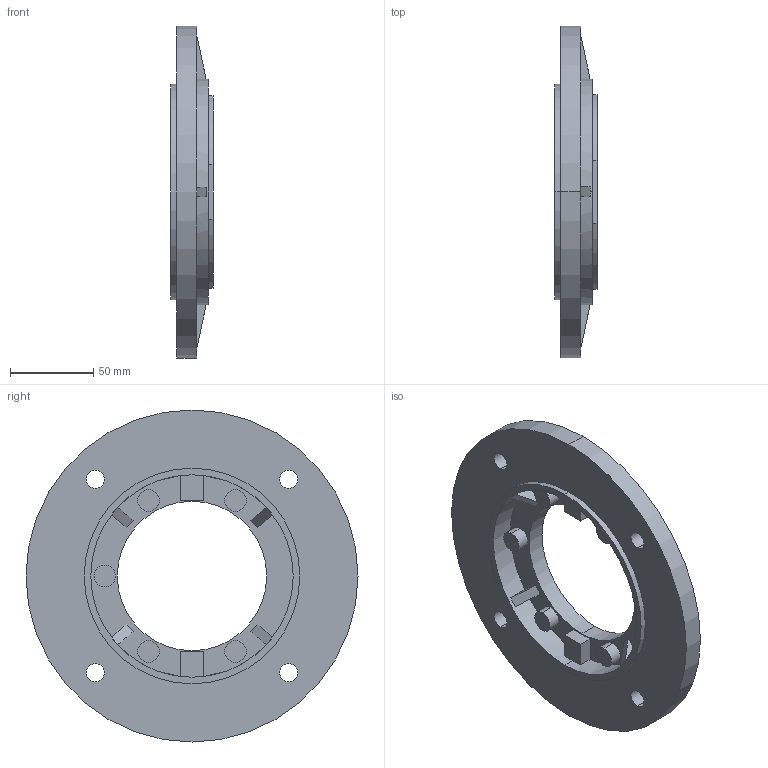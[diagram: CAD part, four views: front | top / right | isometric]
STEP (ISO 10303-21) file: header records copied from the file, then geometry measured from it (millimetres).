
FILE_DESCRIPTION(/* description */ (''),/* implementation_level */ '2;1');
FILE_NAME(/* name */ '2_FLANGIA (CAMPANA) LATERALE FB H052',/* time_stamp */ '2025-10-31T14:23:36+01:00',/* author */ (''),/* organization */ (''),/* preprocessor_version */ 'ST-DEVELOPER v19.2',/* originating_system */ 'Rhino 8.23',/* authorisation */ '');
FILE_SCHEMA (('CONFIG_CONTROL_DESIGN'));
Length unit declared in the file: millimetre
Products named in the file (2): Document; FU052FB-25
Bounding box: 25.5 x 200 x 200 mm (x, y, z)
Volume: 327342.6 mm3; surface area: 75696.4 mm2
Topology: 1 solids, 1 shells, 79 faces, 204 edges, 136 vertices
Faces by surface type: plane 43, cylinder 32, bspline 4
Entity records: 3408 total; most frequent: CARTESIAN_POINT 807, ORIENTED_EDGE 408, DIRECTION 251, EDGE_CURVE 204, AXIS2_PLACEMENT_3D 163, VERTEX_POINT 136, B_SPLINE_CURVE_WITH_KNOTS 116, EDGE_LOOP 98
